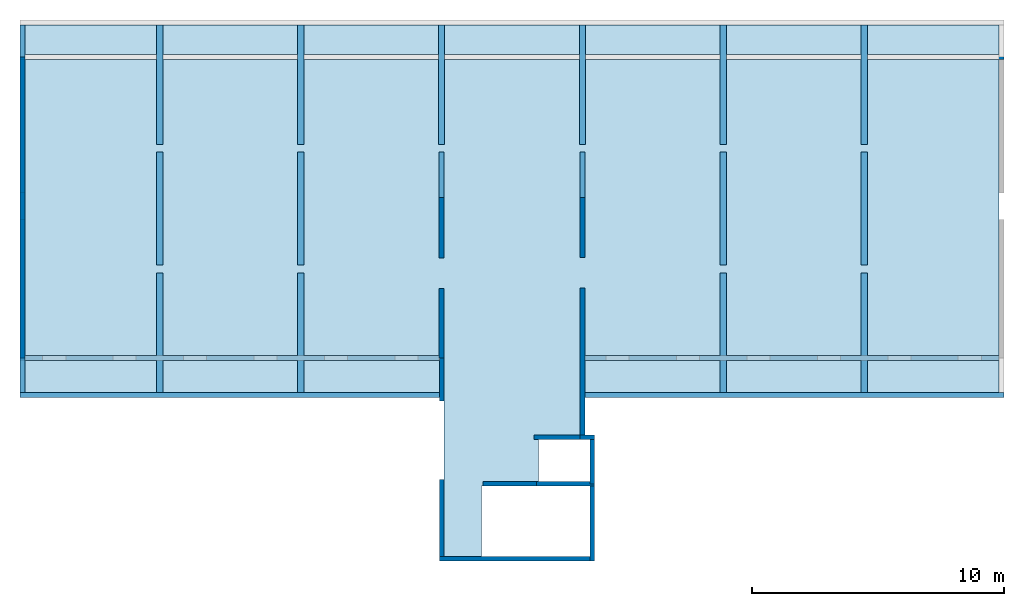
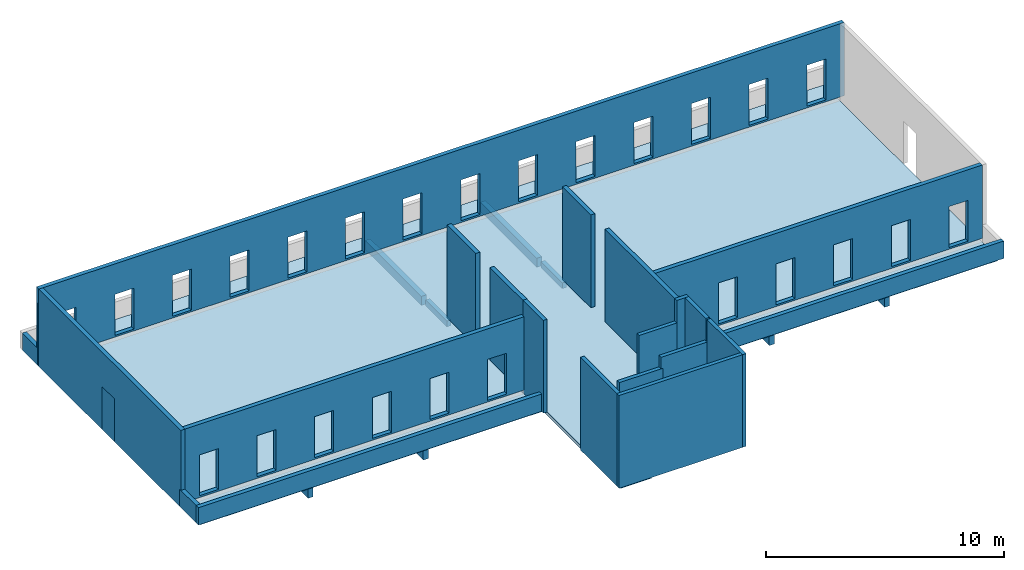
# One storey, part 1 of 3: 22 walls, 8 beams, 1 slab, 27 openings.
"""IFC2X3 building model written with IfcOpenShell, lengths in metres."""

from ifc_helpers import new_model, entity, si_unit, converted_unit, derived_unit, direction, frame, frame_2d, origin, origin_2d_with_axis, place, context, subcontext, project, spatial, polyline, rectangle, outline, extrude, material, layer, layer_set, layer_usage, type_object, element, save


model = new_model("IFC2X3")

# Units and contexts
model_context = context("Model", 3, precision=1e-05, world=origin(), true_north=direction((6.12303176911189e-17, 1.0)))
context_of_model = context(None, 3, precision=1e-05, world=origin(), true_north=direction((6.12303176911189e-17, 1.0)))
body_context = subcontext(model_context, "Body", "Model", "MODEL_VIEW")
ifc_project = project(units=[si_unit("LENGTHUNIT", "METRE"), si_unit("AREAUNIT", "SQUARE_METRE"), si_unit("VOLUMEUNIT", "CUBIC_METRE"), converted_unit("PLANEANGLEUNIT", "DEGREE", entity("IfcRatioMeasure", 0.0174532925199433), si_unit("PLANEANGLEUNIT", "RADIAN"), dimensions=[0, 0, 0, 0, 0, 0, 0]), si_unit("MASSUNIT", "GRAM", prefix="KILO"), si_unit("TIMEUNIT", "SECOND"), si_unit("FREQUENCYUNIT", "HERTZ"), si_unit("THERMODYNAMICTEMPERATUREUNIT", "DEGREE_CELSIUS"), derived_unit("THERMALTRANSMITTANCEUNIT", [(si_unit("MASSUNIT", "GRAM", prefix="KILO"), 1), (si_unit("THERMODYNAMICTEMPERATUREUNIT", "KELVIN"), -1), (si_unit("TIMEUNIT", "SECOND"), -3)]), derived_unit("VOLUMETRICFLOWRATEUNIT", [(si_unit("LENGTHUNIT", "METRE"), 3), (si_unit("TIMEUNIT", "SECOND"), -1)]), si_unit("ELECTRICCURRENTUNIT", "AMPERE"), si_unit("ELECTRICVOLTAGEUNIT", "VOLT"), si_unit("POWERUNIT", "WATT"), si_unit("FORCEUNIT", "NEWTON"), si_unit("ILLUMINANCEUNIT", "LUX"), si_unit("LUMINOUSFLUXUNIT", "LUMEN"), si_unit("LUMINOUSINTENSITYUNIT", "CANDELA"), si_unit("PRESSUREUNIT", "PASCAL")], contexts=[model_context, context_of_model])

# Site, building, storey
site_placement = place(None, origin())
site = spatial("IfcSite", under=ifc_project, at=site_placement, Name="Default", CompositionType="ELEMENT")
building_placement = place(site_placement, origin())
building = spatial("IfcBuilding", under=site, at=building_placement, Name="BATIMENT 1", CompositionType="ELEMENT")
storey_placement = place(building_placement, frame((0.0, 0.0, 7.03999999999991)))
storey = spatial("IfcBuildingStorey", under=building, at=storey_placement, Name="Niveau 2", CompositionType="ELEMENT", Elevation=7.03999999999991)

# Beams
ifc_material = material(Name="AEC Béton, C25/30")
beam_1_placement = place(storey_placement, frame((-14.2036530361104, -6.31746238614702, 0.0), z_axis=(0.0, 0.0, 1.0), x_axis=(0.0, 1.0, 0.0)))
element("IfcBeam", 1, at=beam_1_placement, inside=storey, material=ifc_material, Name="Béton - Poutre rectangulaire:BG 0.25 x 0.65 C25/30", ObjectType="Béton - Poutre rectangulaire:BG 0.25 x 0.65 C25/30", context=body_context, shape_type="SweptSolid", body=[
    extrude(rectangle(XDim=0.469999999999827, YDim=0.250000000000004, at=frame_2d((-5.41233724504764e-16, 0.0), x_axis=(1.0, 0.0))), frame((9.95, 0.0, -0.415000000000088), z_axis=(1.0, 0.0, 0.0), x_axis=(0.0, 0.0, 1.0)), (0.0, 0.0, 1.0), 4.75),
    extrude(rectangle(XDim=0.469999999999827, YDim=0.250000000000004, at=frame_2d((-5.41233724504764e-16, 0.0), x_axis=(1.0, 0.0))), frame((0.0999999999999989, 0.0, -0.415000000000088), z_axis=(1.0, 0.0, 0.0), x_axis=(0.0, 0.0, 1.0)), (0.0, 0.0, 1.0), 4.75),
    extrude(rectangle(XDim=0.469999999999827, YDim=0.250000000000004, at=frame_2d((-5.41233724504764e-16, 0.0), x_axis=(1.0, 0.0))), frame((5.15000000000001, 0.0, -0.415000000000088), z_axis=(1.0, 0.0, 0.0), x_axis=(0.0, 0.0, 1.0)), (0.0, 0.0, 1.0), 4.5),
])
beam_2_placement = place(storey_placement, frame((-8.60365303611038, -6.31746238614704, 0.0), z_axis=(0.0, 0.0, 1.0), x_axis=(0.0, 1.0, 0.0)))
element("IfcBeam", 2, at=beam_2_placement, inside=storey, material=ifc_material, Name="Béton - Poutre rectangulaire:BG 0.25 x 0.65 C25/30", ObjectType="Béton - Poutre rectangulaire:BG 0.25 x 0.65 C25/30", context=body_context, shape_type="SweptSolid", body=[
    extrude(rectangle(XDim=0.469999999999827, YDim=0.250000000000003, at=frame_2d((-5.41233724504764e-16, -5.41233724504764e-16), x_axis=(1.0, 0.0))), frame((9.95, 0.0, -0.415000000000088), z_axis=(1.0, 0.0, 0.0), x_axis=(0.0, 0.0, 1.0)), (0.0, 0.0, 1.0), 4.75),
    extrude(rectangle(XDim=0.469999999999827, YDim=0.250000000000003, at=frame_2d((-5.41233724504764e-16, -5.41233724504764e-16), x_axis=(1.0, 0.0))), frame((0.0999999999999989, 0.0, -0.415000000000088), z_axis=(1.0, 0.0, 0.0), x_axis=(0.0, 0.0, 1.0)), (0.0, 0.0, 1.0), 4.75000000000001),
    extrude(rectangle(XDim=0.469999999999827, YDim=0.250000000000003, at=frame_2d((-5.41233724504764e-16, 5.41233724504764e-16), x_axis=(1.0, 0.0))), frame((5.15000000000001, 0.0, -0.415000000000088), z_axis=(1.0, 0.0, 0.0), x_axis=(0.0, 0.0, 1.0)), (0.0, 0.0, 1.0), 4.5),
])
beam_3_placement = place(storey_placement, frame((8.19634696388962, -6.31746238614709, 0.0), z_axis=(0.0, 0.0, 1.0), x_axis=(0.0, 1.0, 0.0)))
element("IfcBeam", 3, at=beam_3_placement, inside=storey, material=ifc_material, Name="Béton - Poutre rectangulaire:BG 0.25 x 0.65 C25/30", ObjectType="Béton - Poutre rectangulaire:BG 0.25 x 0.65 C25/30", context=body_context, shape_type="SweptSolid", body=[
    extrude(rectangle(XDim=0.469999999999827, YDim=0.250000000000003, at=frame_2d((-5.41233724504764e-16, -5.41233724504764e-16), x_axis=(1.0, 0.0))), frame((9.95, 0.0, -0.415000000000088), z_axis=(1.0, 0.0, 0.0), x_axis=(0.0, 0.0, 1.0)), (0.0, 0.0, 1.0), 4.75),
    extrude(rectangle(XDim=0.469999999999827, YDim=0.250000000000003, at=frame_2d((-5.41233724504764e-16, -5.41233724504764e-16), x_axis=(1.0, 0.0))), frame((0.0999999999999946, 0.0, -0.415000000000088), z_axis=(1.0, 0.0, 0.0), x_axis=(0.0, 0.0, 1.0)), (0.0, 0.0, 1.0), 4.75000000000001),
    extrude(rectangle(XDim=0.469999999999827, YDim=0.250000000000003, at=frame_2d((-5.41233724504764e-16, 5.41233724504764e-16), x_axis=(1.0, 0.0))), frame((5.15000000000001, 0.0, -0.415000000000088), z_axis=(1.0, 0.0, 0.0), x_axis=(0.0, 0.0, 1.0)), (0.0, 0.0, 1.0), 4.5),
])
beam_4_placement = place(storey_placement, frame((13.7963469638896, -6.31746238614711, 0.0), z_axis=(0.0, 0.0, 1.0), x_axis=(0.0, 1.0, 0.0)))
element("IfcBeam", 4, at=beam_4_placement, inside=storey, material=ifc_material, Name="Béton - Poutre rectangulaire:BG 0.25 x 0.65 C25/30", ObjectType="Béton - Poutre rectangulaire:BG 0.25 x 0.65 C25/30", context=body_context, shape_type="SweptSolid", body=[
    extrude(rectangle(XDim=0.469999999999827, YDim=0.250000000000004, at=frame_2d((-5.41233724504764e-16, -2.17187379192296e-15), x_axis=(1.0, 0.0))), frame((9.95, 0.0, -0.415000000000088), z_axis=(1.0, 0.0, 0.0), x_axis=(0.0, 0.0, 1.0)), (0.0, 0.0, 1.0), 4.75),
    extrude(rectangle(XDim=0.469999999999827, YDim=0.250000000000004, at=frame_2d((-5.41233724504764e-16, 0.0), x_axis=(1.0, 0.0))), frame((0.0999999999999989, 0.0, -0.415000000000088), z_axis=(1.0, 0.0, 0.0), x_axis=(0.0, 0.0, 1.0)), (0.0, 0.0, 1.0), 4.75000000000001),
    extrude(rectangle(XDim=0.469999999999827, YDim=0.250000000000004, at=frame_2d((-5.41233724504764e-16, 0.0), x_axis=(1.0, 0.0))), frame((5.15000000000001, 0.0, -0.415000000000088), z_axis=(1.0, 0.0, 0.0), x_axis=(0.0, 0.0, 1.0)), (0.0, 0.0, 1.0), 4.5),
])
beam_5_placement = place(storey_placement, frame((-3.00365303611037, 3.48253761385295, 0.0), z_axis=(0.0, 0.0, 1.0), x_axis=(0.0, 1.0, 0.0)))
element("IfcBeam", 5, at=beam_5_placement, inside=storey, material=ifc_material, Name="Béton - Poutre rectangulaire:BG 0.25 x 0.65 C25/30", ObjectType="Béton - Poutre rectangulaire:BG 0.25 x 0.65 C25/30", context=body_context, shape_type="SweptSolid", body=[
    extrude(rectangle(XDim=0.469999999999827, YDim=0.250000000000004, at=frame_2d((5.41233724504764e-16, -8.04911692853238e-16), x_axis=(1.0, 0.0))), frame((0.149999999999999, 0.0, -0.415000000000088), z_axis=(1.0, 0.0, 0.0), x_axis=(0.0, 0.0, -1.0)), (0.0, 0.0, 1.0), 4.75000000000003),
])
beam_6_placement = place(storey_placement, frame((2.59634696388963, 3.48253761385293, 0.0), z_axis=(0.0, 0.0, 1.0), x_axis=(0.0, 1.0, 0.0)))
element("IfcBeam", 6, at=beam_6_placement, inside=storey, material=ifc_material, Name="Béton - Poutre rectangulaire:BG 0.25 x 0.65 C25/30", ObjectType="Béton - Poutre rectangulaire:BG 0.25 x 0.65 C25/30", context=body_context, shape_type="SweptSolid", body=[
    extrude(rectangle(XDim=0.469999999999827, YDim=0.250000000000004, at=frame_2d((5.41233724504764e-16, -8.04911692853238e-16), x_axis=(1.0, 0.0))), frame((0.150000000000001, 0.0, -0.415000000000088), z_axis=(1.0, 0.0, 0.0), x_axis=(0.0, 0.0, -1.0)), (0.0, 0.0, 1.0), 4.75000000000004),
])
beam_7_placement = place(storey_placement, frame((-3.00365303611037, 3.48253761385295, 0.0), z_axis=(0.0, 0.0, 1.0), x_axis=(0.0, -1.0, 0.0)))
element("IfcBeam", 7, at=beam_7_placement, inside=storey, material=ifc_material, Name="Béton - Poutre rectangulaire:BG 0.20 x 0.48  C25/30", ObjectType="Béton - Poutre rectangulaire:BG 0.20 x 0.48  C25/30", context=body_context, shape_type="SweptSolid", body=[
    extrude(rectangle(XDim=0.299999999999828, YDim=0.200000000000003, at=frame_2d((5.41233724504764e-16, 0.0), x_axis=(1.0, 0.0))), frame((0.149999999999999, 0.0, -0.330000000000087), z_axis=(1.0, 0.0, 0.0), x_axis=(0.0, 0.0, -1.0)), (0.0, 0.0, 1.0), 1.80000000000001),
])
beam_8_placement = place(storey_placement, frame((2.59634696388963, 3.48253761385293, 0.0), z_axis=(0.0, 0.0, 1.0), x_axis=(0.0, -1.0, 0.0)))
element("IfcBeam", 8, at=beam_8_placement, inside=storey, material=ifc_material, Name="Béton - Poutre rectangulaire:BG 0.20 x 0.48  C25/30", ObjectType="Béton - Poutre rectangulaire:BG 0.20 x 0.48  C25/30", context=body_context, shape_type="SweptSolid", body=[
    extrude(rectangle(XDim=0.299999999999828, YDim=0.200000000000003, at=frame_2d((5.41233724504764e-16, 0.0), x_axis=(1.0, 0.0))), frame((0.15, 0.0, -0.330000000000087), z_axis=(1.0, 0.0, 0.0), x_axis=(0.0, 0.0, -1.0)), (0.0, 0.0, 1.0), 1.80000000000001),
])

# Slab
ifc_layer_1 = layer(ifc_material, 0.18)
ifc_layer_set_1 = layer_set([ifc_layer_1], Name="Sol:BG DALLE BA 0.18 C25/30")
ifc_layer_usage_1 = layer_usage(ifc_layer_set_1, "AXIS3", "POSITIVE", 0.0)
slab_placement = place(storey_placement, origin())
element("IfcSlab", 9, at=slab_placement, inside=storey, material=ifc_layer_usage_1, Name="Sol:BG DALLE BA 0.18 C25/30", ObjectType="Sol:BG DALLE BA 0.18 C25/30", PredefinedType="FLOOR", context=body_context, shape_type="SweptSolid", body=[
    extrude(outline(polyline([(0.155714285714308, -19.7792857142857), (14.7557142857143, -19.7792857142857), (14.7557142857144, 18.9407142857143), (0.155714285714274, 18.9407142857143), (0.155714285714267, 2.2807142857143), (-1.72428571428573, 2.2807142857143), (-1.72428571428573, 0.635714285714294), (-3.39428571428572, 0.635714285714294), (-3.39428571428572, 2.68071428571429), (-3.57428571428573, 2.68071428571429), (-3.57428571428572, -1.62928571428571), (-6.37428571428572, -1.62928571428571), (-6.37428571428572, -3.12928571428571), (0.155714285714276, -3.12928571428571), (0.155714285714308, -19.7792857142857)])), frame((0.215632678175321, -6.37317667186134, 0.0), z_axis=(0.0, 0.0, -1.0), x_axis=(0.0, 1.0, 0.0)), (0.0, 0.0, 1.0), 0.180000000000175),
])

# Walls
ifc_layer_2 = layer(ifc_material, 0.2)
ifc_layer_set_2 = layer_set([ifc_layer_2], Name="Mur de base:BG VOILE BA 0.20 C25/30")
ifc_layer_usage_2 = layer_usage(ifc_layer_set_2, "AXIS2", "NEGATIVE", 0.1)
wall_type_1 = type_object("IfcWallType", Name="Mur de base:BG VOILE BA 0.20 C25/30", PredefinedType="STANDARD", material=ifc_layer_set_2)
wall_1_placement = place(storey_placement, frame((-19.7636530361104, -6.317462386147, 0.0)))
element("IfcWallStandardCase", 10, at=wall_1_placement, inside=storey, type_object=wall_type_1, material=ifc_layer_usage_2, Name="Mur de base:BG VOILE BA 0.20 C25/30", ObjectType="Mur de base:BG VOILE BA 0.20 C25/30", context=body_context, shape_type="SweptSolid", body=[
    extrude(rectangle(XDim=16.67, YDim=0.2, at=frame_2d((8.33500000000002, 3.7470027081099e-16), x_axis=(-1.0, 0.0))), origin(), (0.0, 0.0, 1.0), 0.890000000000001),
])
ifc_layer_usage_3 = layer_usage(ifc_layer_set_2, "AXIS2", "NEGATIVE", 0.1)
wall_2_placement = place(storey_placement, frame((2.69634696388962, -6.31746238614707, 0.0)))
element("IfcWallStandardCase", 11, at=wall_2_placement, inside=storey, type_object=wall_type_1, material=ifc_layer_usage_3, Name="Mur de base:BG VOILE BA 0.20 C25/30", ObjectType="Mur de base:BG VOILE BA 0.20 C25/30", context=body_context, shape_type="SweptSolid", body=[
    extrude(rectangle(XDim=16.6594874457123, YDim=0.2, at=frame_2d((8.32974372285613, 3.53883589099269e-16), x_axis=(-1.0, 0.0))), origin(), (0.0, 0.0, 1.0), 0.890000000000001),
])
ifc_layer_usage_4 = layer_usage(ifc_layer_set_2, "AXIS2", "NEGATIVE", 0.1)
wall_3_placement = place(storey_placement, frame((2.59634696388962, -7.91746238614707, 0.0), z_axis=(0.0, 0.0, 1.0), x_axis=(0.0, 1.0, 0.0)))
element("IfcWallStandardCase", 12, at=wall_3_placement, inside=storey, type_object=wall_type_1, material=ifc_layer_usage_4, Name="Mur de base:BG VOILE BA 0.20 C25/30", ObjectType="Mur de base:BG VOILE BA 0.20 C25/30", context=body_context, shape_type="SweptSolid", body=[
    extrude(rectangle(XDim=5.85, YDim=0.2, at=frame_2d((2.925, 0.0), x_axis=(-1.0, 0.0))), origin(), (0.0, 0.0, 1.0), 4.76000000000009),
])
ifc_layer_usage_5 = layer_usage(ifc_layer_set_2, "AXIS2", "NEGATIVE", 0.1)
wall_4_placement = place(storey_placement, frame((-3.00365303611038, -0.887462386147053, 0.0), z_axis=(0.0, 0.0, 1.0), x_axis=(0.0, 1.0, 0.0)))
element("IfcWallStandardCase", 13, at=wall_4_placement, inside=storey, type_object=wall_type_1, material=ifc_layer_usage_5, Name="Mur de base:BG VOILE BA 0.20 C25/30", ObjectType="Mur de base:BG VOILE BA 0.20 C25/30", context=body_context, shape_type="SweptSolid", body=[
    extrude(rectangle(XDim=2.42, YDim=0.2, at=frame_2d((1.21, 2.08166817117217e-17), x_axis=(-1.0, 0.0))), origin(), (0.0, 0.0, 1.0), 4.76000000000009),
])
ifc_layer_usage_6 = layer_usage(ifc_layer_set_2, "AXIS2", "NEGATIVE", 0.1)
wall_5_placement = place(storey_placement, frame((2.59634696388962, -0.867462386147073, 0.0), z_axis=(0.0, 0.0, 1.0), x_axis=(0.0, 1.0, 0.0)))
element("IfcWallStandardCase", 14, at=wall_5_placement, inside=storey, type_object=wall_type_1, material=ifc_layer_usage_6, Name="Mur de base:BG VOILE BA 0.20 C25/30", ObjectType="Mur de base:BG VOILE BA 0.20 C25/30", context=body_context, shape_type="SweptSolid", body=[
    extrude(rectangle(XDim=2.4, YDim=0.2, at=frame_2d((1.2, 0.0), x_axis=(-1.0, 0.0))), origin(), (0.0, 0.0, 1.0), 4.76000000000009),
])

# Wall, openings
ifc_layer_usage_7 = layer_usage(ifc_layer_set_2, "AXIS2", "NEGATIVE", 0.1)
wall_6_placement = place(storey_placement, frame((-19.7636530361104, 7.112537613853, 0.209999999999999)))
wall_6 = element("IfcWallStandardCase", 15, at=wall_6_placement, inside=storey, type_object=wall_type_1, material=ifc_layer_usage_7, Name="Mur de base:BG VOILE BA 0.20 C25/30", ObjectType="Mur de base:BG VOILE BA 0.20 C25/30", context=body_context, shape_type="SweptSolid", body=[
    extrude(rectangle(XDim=39.12, YDim=0.2, at=frame_2d((19.56, 3.19189119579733e-16), x_axis=(-1.0, 0.0))), origin(), (0.0, 0.0, 1.0), 3.76000000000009),
])
opening_1_placement = place(wall_6_placement, origin())
element("IfcOpeningElement", 16, at=opening_1_placement, cuts=wall_6, Name="Mur de base:BG VOILE BA 0.20 C25/30", ObjectType="Opening", context=body_context, shape_type="SweptSolid", body=[
    extrude(rectangle(XDim=2.1, YDim=0.919999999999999, at=frame_2d((-5.55111512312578e-16, 0.0), x_axis=(1.0, 0.0))), frame((1.35999999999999, -0.1, 1.14), z_axis=(0.0, 1.0, 0.0), x_axis=(0.0, 0.0, -1.0)), (0.0, 0.0, 1.0), 0.2),
])
opening_2_placement = place(wall_6_placement, origin())
element("IfcOpeningElement", 17, at=opening_2_placement, cuts=wall_6, Name="Mur de base:BG VOILE BA 0.20 C25/30", ObjectType="Opening", context=body_context, shape_type="SweptSolid", body=[
    extrude(rectangle(XDim=2.1, YDim=0.919999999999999, at=frame_2d((-5.55111512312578e-16, 0.0), x_axis=(1.0, 0.0))), frame((4.15999999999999, -0.1, 1.14), z_axis=(0.0, 1.0, 0.0), x_axis=(0.0, 0.0, -1.0)), (0.0, 0.0, 1.0), 0.2),
])
opening_3_placement = place(wall_6_placement, origin())
element("IfcOpeningElement", 18, at=opening_3_placement, cuts=wall_6, Name="Mur de base:BG VOILE BA 0.20 C25/30", ObjectType="Opening", context=body_context, shape_type="SweptSolid", body=[
    extrude(rectangle(XDim=2.1, YDim=0.919999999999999, at=frame_2d((-5.55111512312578e-16, 0.0), x_axis=(1.0, 0.0))), frame((6.95999999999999, -0.0999999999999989, 1.14), z_axis=(0.0, 1.0, 0.0), x_axis=(0.0, 0.0, -1.0)), (0.0, 0.0, 1.0), 0.2),
])
opening_4_placement = place(wall_6_placement, origin())
element("IfcOpeningElement", 19, at=opening_4_placement, cuts=wall_6, Name="Mur de base:BG VOILE BA 0.20 C25/30", ObjectType="Opening", context=body_context, shape_type="SweptSolid", body=[
    extrude(rectangle(XDim=2.1, YDim=0.919999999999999, at=frame_2d((-5.55111512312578e-16, 0.0), x_axis=(1.0, 0.0))), frame((9.75999999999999, -0.0999999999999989, 1.14), z_axis=(0.0, 1.0, 0.0), x_axis=(0.0, 0.0, -1.0)), (0.0, 0.0, 1.0), 0.2),
])
opening_5_placement = place(wall_6_placement, origin())
element("IfcOpeningElement", 20, at=opening_5_placement, cuts=wall_6, Name="Mur de base:BG VOILE BA 0.20 C25/30", ObjectType="Opening", context=body_context, shape_type="SweptSolid", body=[
    extrude(rectangle(XDim=2.1, YDim=0.919999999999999, at=frame_2d((-5.55111512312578e-16, 0.0), x_axis=(1.0, 0.0))), frame((12.56, -0.0999999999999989, 1.14), z_axis=(0.0, 1.0, 0.0), x_axis=(0.0, 0.0, -1.0)), (0.0, 0.0, 1.0), 0.2),
])
opening_6_placement = place(wall_6_placement, origin())
element("IfcOpeningElement", 21, at=opening_6_placement, cuts=wall_6, Name="Mur de base:BG VOILE BA 0.20 C25/30", ObjectType="Opening", context=body_context, shape_type="SweptSolid", body=[
    extrude(rectangle(XDim=2.1, YDim=0.919999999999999, at=frame_2d((-5.55111512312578e-16, 0.0), x_axis=(1.0, 0.0))), frame((15.36, -0.0999999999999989, 1.14), z_axis=(0.0, 1.0, 0.0), x_axis=(0.0, 0.0, -1.0)), (0.0, 0.0, 1.0), 0.2),
])
opening_7_placement = place(wall_6_placement, origin())
element("IfcOpeningElement", 22, at=opening_7_placement, cuts=wall_6, Name="Mur de base:BG VOILE BA 0.20 C25/30", ObjectType="Opening", context=body_context, shape_type="SweptSolid", body=[
    extrude(rectangle(XDim=2.1, YDim=0.919999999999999, at=frame_2d((-5.55111512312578e-16, 0.0), x_axis=(1.0, 0.0))), frame((18.16, -0.0999999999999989, 1.14), z_axis=(0.0, 1.0, 0.0), x_axis=(0.0, 0.0, -1.0)), (0.0, 0.0, 1.0), 0.2),
])
opening_8_placement = place(wall_6_placement, origin())
element("IfcOpeningElement", 23, at=opening_8_placement, cuts=wall_6, Name="Mur de base:BG VOILE BA 0.20 C25/30", ObjectType="Opening", context=body_context, shape_type="SweptSolid", body=[
    extrude(rectangle(XDim=2.1, YDim=0.919999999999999, at=frame_2d((-5.55111512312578e-16, -8.32667268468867e-17), x_axis=(1.0, 0.0))), frame((20.96, -0.1, 1.14), z_axis=(0.0, 1.0, 0.0), x_axis=(0.0, 0.0, -1.0)), (0.0, 0.0, 1.0), 0.2),
])
opening_9_placement = place(wall_6_placement, origin())
element("IfcOpeningElement", 24, at=opening_9_placement, cuts=wall_6, Name="Mur de base:BG VOILE BA 0.20 C25/30", ObjectType="Opening", context=body_context, shape_type="SweptSolid", body=[
    extrude(rectangle(XDim=2.1, YDim=0.919999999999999, at=frame_2d((-5.55111512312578e-16, 0.0), x_axis=(1.0, 0.0))), frame((23.76, -0.1, 1.14), z_axis=(0.0, 1.0, 0.0), x_axis=(0.0, 0.0, -1.0)), (0.0, 0.0, 1.0), 0.2),
])
opening_10_placement = place(wall_6_placement, origin())
element("IfcOpeningElement", 25, at=opening_10_placement, cuts=wall_6, Name="Mur de base:BG VOILE BA 0.20 C25/30", ObjectType="Opening", context=body_context, shape_type="SweptSolid", body=[
    extrude(rectangle(XDim=2.1, YDim=0.919999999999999, at=frame_2d((-5.55111512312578e-16, 0.0), x_axis=(1.0, 0.0))), frame((26.56, -0.1, 1.14), z_axis=(0.0, 1.0, 0.0), x_axis=(0.0, 0.0, -1.0)), (0.0, 0.0, 1.0), 0.2),
])
opening_11_placement = place(wall_6_placement, origin())
element("IfcOpeningElement", 26, at=opening_11_placement, cuts=wall_6, Name="Mur de base:BG VOILE BA 0.20 C25/30", ObjectType="Opening", context=body_context, shape_type="SweptSolid", body=[
    extrude(rectangle(XDim=2.1, YDim=0.919999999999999, at=frame_2d((-5.55111512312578e-16, 0.0), x_axis=(1.0, 0.0))), frame((29.36, -0.1, 1.14), z_axis=(0.0, 1.0, 0.0), x_axis=(0.0, 0.0, -1.0)), (0.0, 0.0, 1.0), 0.2),
])
opening_12_placement = place(wall_6_placement, origin())
element("IfcOpeningElement", 27, at=opening_12_placement, cuts=wall_6, Name="Mur de base:BG VOILE BA 0.20 C25/30", ObjectType="Opening", context=body_context, shape_type="SweptSolid", body=[
    extrude(rectangle(XDim=2.1, YDim=0.919999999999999, at=frame_2d((-5.55111512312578e-16, 0.0), x_axis=(1.0, 0.0))), frame((32.16, -0.1, 1.14), z_axis=(0.0, 1.0, 0.0), x_axis=(0.0, 0.0, -1.0)), (0.0, 0.0, 1.0), 0.2),
])
opening_13_placement = place(wall_6_placement, origin())
element("IfcOpeningElement", 28, at=opening_13_placement, cuts=wall_6, Name="Mur de base:BG VOILE BA 0.20 C25/30", ObjectType="Opening", context=body_context, shape_type="SweptSolid", body=[
    extrude(rectangle(XDim=2.1, YDim=0.919999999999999, at=frame_2d((-5.55111512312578e-16, 0.0), x_axis=(1.0, 0.0))), frame((34.96, -0.1, 1.14), z_axis=(0.0, 1.0, 0.0), x_axis=(0.0, 0.0, -1.0)), (0.0, 0.0, 1.0), 0.2),
])
opening_14_placement = place(wall_6_placement, origin())
element("IfcOpeningElement", 29, at=opening_14_placement, cuts=wall_6, Name="Mur de base:BG VOILE BA 0.20 C25/30", ObjectType="Opening", context=body_context, shape_type="SweptSolid", body=[
    extrude(rectangle(XDim=2.1, YDim=0.919999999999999, at=frame_2d((-5.55111512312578e-16, 0.0), x_axis=(1.0, 0.0))), frame((37.76, -0.1, 1.14), z_axis=(0.0, 1.0, 0.0), x_axis=(0.0, 0.0, -1.0)), (0.0, 0.0, 1.0), 0.2),
])

# Wall
ifc_layer_usage_8 = layer_usage(ifc_layer_set_2, "AXIS2", "NEGATIVE", 0.1)
wall_7_placement = place(storey_placement, frame((-19.6636530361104, 7.112537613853, 0.0), z_axis=(0.0, 0.0, 1.0), x_axis=(0.0, -1.0, 0.0)))
element("IfcWallStandardCase", 30, at=wall_7_placement, inside=storey, type_object=wall_type_1, material=ifc_layer_usage_8, Name="Mur de base:BG VOILE BA 0.20 C25/30", ObjectType="Mur de base:BG VOILE BA 0.20 C25/30", context=body_context, shape_type="SweptSolid", body=[
    extrude(rectangle(XDim=11.96, YDim=0.199999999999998, at=frame_2d((5.98, 0.0), x_axis=(-1.0, 0.0))), origin(), (0.0, 0.0, 1.0), 3.21000000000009),
])

# Wall, opening
ifc_layer_usage_9 = layer_usage(ifc_layer_set_2, "AXIS2", "NEGATIVE", 0.1)
wall_8_placement = place(storey_placement, frame((-19.6636530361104, 7.112537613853, 0.0), z_axis=(0.0, 0.0, 1.0), x_axis=(0.0, -1.0, 0.0)))
wall_8 = element("IfcWallStandardCase", 31, at=wall_8_placement, inside=storey, type_object=wall_type_1, material=ifc_layer_usage_9, Name="Mur de base:BG VOILE BA 0.20 C25/30", ObjectType="Mur de base:BG VOILE BA 0.20 C25/30", context=body_context, shape_type="SweptSolid", body=[
    extrude(rectangle(XDim=11.96, YDim=0.200000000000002, at=frame_2d((6.08, -2.51187959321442e-15), x_axis=(1.0, 0.0))), origin(), (0.0, 0.0, 1.0), 3.97000000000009),
])
opening_15_placement = place(wall_8_placement, origin())
element("IfcOpeningElement", 32, at=opening_15_placement, cuts=wall_8, Name="Mur de base:BG VOILE BA 0.20 C25/30", ObjectType="Opening", context=body_context, shape_type="SweptSolid", body=[
    extrude(rectangle(XDim=2.2, YDim=1.05, at=origin_2d_with_axis()), frame((5.94, -0.0999999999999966, 1.1), z_axis=(0.0, 1.0, 0.0), x_axis=(0.0, 0.0, -1.0)), (0.0, 0.0, 1.0), 0.199999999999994),
])

# Wall, openings
ifc_layer_usage_10 = layer_usage(ifc_layer_set_2, "AXIS2", "NEGATIVE", 0.1)
wall_9_placement = place(storey_placement, frame((-19.5636530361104, -4.847462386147, 0.209999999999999)))
wall_9 = element("IfcWallStandardCase", 33, at=wall_9_placement, inside=storey, type_object=wall_type_1, material=ifc_layer_usage_10, Name="Mur de base:BG VOILE BA 0.20 C25/30", ObjectType="Mur de base:BG VOILE BA 0.20 C25/30", context=body_context, shape_type="SweptSolid", body=[
    extrude(rectangle(XDim=16.46, YDim=0.199999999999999, at=frame_2d((8.23000000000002, 3.05311331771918e-16), x_axis=(-1.0, 0.0))), origin(), (0.0, 0.0, 1.0), 3.76000000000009),
])
opening_16_placement = place(wall_9_placement, origin())
element("IfcOpeningElement", 34, at=opening_16_placement, cuts=wall_9, Name="Mur de base:BG VOILE BA 0.20 C25/30", ObjectType="Opening", context=body_context, shape_type="SweptSolid", body=[
    extrude(rectangle(XDim=2.1, YDim=0.919999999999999, at=frame_2d((-5.55111512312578e-16, 0.0), x_axis=(1.0, 0.0))), frame((1.15999999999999, -0.1, 1.14), z_axis=(0.0, 1.0, 0.0), x_axis=(0.0, 0.0, -1.0)), (0.0, 0.0, 1.0), 0.2),
])
opening_17_placement = place(wall_9_placement, origin())
element("IfcOpeningElement", 35, at=opening_17_placement, cuts=wall_9, Name="Mur de base:BG VOILE BA 0.20 C25/30", ObjectType="Opening", context=body_context, shape_type="SweptSolid", body=[
    extrude(rectangle(XDim=2.1, YDim=0.919999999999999, at=frame_2d((-5.55111512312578e-16, 0.0), x_axis=(1.0, 0.0))), frame((3.95999999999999, -0.100000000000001, 1.14), z_axis=(0.0, 1.0, 0.0), x_axis=(0.0, 0.0, -1.0)), (0.0, 0.0, 1.0), 0.200000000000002),
])
opening_18_placement = place(wall_9_placement, origin())
element("IfcOpeningElement", 36, at=opening_18_placement, cuts=wall_9, Name="Mur de base:BG VOILE BA 0.20 C25/30", ObjectType="Opening", context=body_context, shape_type="SweptSolid", body=[
    extrude(rectangle(XDim=2.1, YDim=0.919999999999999, at=frame_2d((-5.55111512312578e-16, 0.0), x_axis=(1.0, 0.0))), frame((6.75999999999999, -0.1, 1.14), z_axis=(0.0, 1.0, 0.0), x_axis=(0.0, 0.0, -1.0)), (0.0, 0.0, 1.0), 0.200000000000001),
])
opening_19_placement = place(wall_9_placement, origin())
element("IfcOpeningElement", 37, at=opening_19_placement, cuts=wall_9, Name="Mur de base:BG VOILE BA 0.20 C25/30", ObjectType="Opening", context=body_context, shape_type="SweptSolid", body=[
    extrude(rectangle(XDim=2.1, YDim=0.919999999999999, at=frame_2d((-5.55111512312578e-16, 0.0), x_axis=(1.0, 0.0))), frame((9.55999999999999, -0.0999999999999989, 1.14), z_axis=(0.0, 1.0, 0.0), x_axis=(0.0, 0.0, -1.0)), (0.0, 0.0, 1.0), 0.199999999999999),
])
opening_20_placement = place(wall_9_placement, origin())
element("IfcOpeningElement", 38, at=opening_20_placement, cuts=wall_9, Name="Mur de base:BG VOILE BA 0.20 C25/30", ObjectType="Opening", context=body_context, shape_type="SweptSolid", body=[
    extrude(rectangle(XDim=2.1, YDim=0.919999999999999, at=frame_2d((-5.55111512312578e-16, 0.0), x_axis=(1.0, 0.0))), frame((12.36, -0.0999999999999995, 1.14), z_axis=(0.0, 1.0, 0.0), x_axis=(0.0, 0.0, -1.0)), (0.0, 0.0, 1.0), 0.199999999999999),
])
opening_21_placement = place(wall_9_placement, origin())
element("IfcOpeningElement", 39, at=opening_21_placement, cuts=wall_9, Name="Mur de base:BG VOILE BA 0.20 C25/30", ObjectType="Opening", context=body_context, shape_type="SweptSolid", body=[
    extrude(rectangle(XDim=2.1, YDim=0.919999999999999, at=frame_2d((-5.55111512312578e-16, 0.0), x_axis=(1.0, 0.0))), frame((15.16, -0.0999999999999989, 1.14), z_axis=(0.0, 1.0, 0.0), x_axis=(0.0, 0.0, -1.0)), (0.0, 0.0, 1.0), 0.199999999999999),
])

ifc_layer_usage_11 = layer_usage(ifc_layer_set_2, "AXIS2", "NEGATIVE", 0.1)
wall_10_placement = place(storey_placement, frame((2.69634696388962, -4.84746238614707, 0.209999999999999)))
wall_10 = element("IfcWallStandardCase", 40, at=wall_10_placement, inside=storey, type_object=wall_type_1, material=ifc_layer_usage_11, Name="Mur de base:BG VOILE BA 0.20 C25/30", ObjectType="Mur de base:BG VOILE BA 0.20 C25/30", context=body_context, shape_type="SweptSolid", body=[
    extrude(rectangle(XDim=16.46, YDim=0.200000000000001, at=frame_2d((8.22999999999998, -2.35922392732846e-16), x_axis=(-1.0, 0.0))), origin(), (0.0, 0.0, 1.0), 3.76000000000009),
])
opening_22_placement = place(wall_10_placement, origin())
element("IfcOpeningElement", 41, at=opening_22_placement, cuts=wall_10, Name="Mur de base:BG VOILE BA 0.20 C25/30", ObjectType="Opening", context=body_context, shape_type="SweptSolid", body=[
    extrude(rectangle(XDim=2.1, YDim=0.919999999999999, at=frame_2d((-5.55111512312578e-16, 0.0), x_axis=(1.0, 0.0))), frame((1.29999999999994, -0.100000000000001, 1.14), z_axis=(0.0, 1.0, 0.0), x_axis=(0.0, 0.0, -1.0)), (0.0, 0.0, 1.0), 0.200000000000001),
])
opening_23_placement = place(wall_10_placement, origin())
element("IfcOpeningElement", 42, at=opening_23_placement, cuts=wall_10, Name="Mur de base:BG VOILE BA 0.20 C25/30", ObjectType="Opening", context=body_context, shape_type="SweptSolid", body=[
    extrude(rectangle(XDim=2.1, YDim=0.919999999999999, at=frame_2d((-5.55111512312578e-16, 0.0), x_axis=(1.0, 0.0))), frame((4.09999999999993, -0.0999999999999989, 1.14), z_axis=(0.0, 1.0, 0.0), x_axis=(0.0, 0.0, -1.0)), (0.0, 0.0, 1.0), 0.199999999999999),
])
opening_24_placement = place(wall_10_placement, origin())
element("IfcOpeningElement", 43, at=opening_24_placement, cuts=wall_10, Name="Mur de base:BG VOILE BA 0.20 C25/30", ObjectType="Opening", context=body_context, shape_type="SweptSolid", body=[
    extrude(rectangle(XDim=2.1, YDim=0.919999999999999, at=frame_2d((-5.55111512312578e-16, 0.0), x_axis=(1.0, 0.0))), frame((6.89999999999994, -0.100000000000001, 1.14), z_axis=(0.0, 1.0, 0.0), x_axis=(0.0, 0.0, -1.0)), (0.0, 0.0, 1.0), 0.199999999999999),
])
opening_25_placement = place(wall_10_placement, origin())
element("IfcOpeningElement", 44, at=opening_25_placement, cuts=wall_10, Name="Mur de base:BG VOILE BA 0.20 C25/30", ObjectType="Opening", context=body_context, shape_type="SweptSolid", body=[
    extrude(rectangle(XDim=2.1, YDim=0.919999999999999, at=frame_2d((-5.55111512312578e-16, 0.0), x_axis=(1.0, 0.0))), frame((9.69999999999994, -0.100000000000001, 1.14), z_axis=(0.0, 1.0, 0.0), x_axis=(0.0, 0.0, -1.0)), (0.0, 0.0, 1.0), 0.199999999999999),
])
opening_26_placement = place(wall_10_placement, origin())
element("IfcOpeningElement", 45, at=opening_26_placement, cuts=wall_10, Name="Mur de base:BG VOILE BA 0.20 C25/30", ObjectType="Opening", context=body_context, shape_type="SweptSolid", body=[
    extrude(rectangle(XDim=2.1, YDim=0.919999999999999, at=frame_2d((-5.55111512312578e-16, 0.0), x_axis=(1.0, 0.0))), frame((12.4999999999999, -0.100000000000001, 1.14), z_axis=(0.0, 1.0, 0.0), x_axis=(0.0, 0.0, -1.0)), (0.0, 0.0, 1.0), 0.200000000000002),
])
opening_27_placement = place(wall_10_placement, origin())
element("IfcOpeningElement", 46, at=opening_27_placement, cuts=wall_10, Name="Mur de base:BG VOILE BA 0.20 C25/30", ObjectType="Opening", context=body_context, shape_type="SweptSolid", body=[
    extrude(rectangle(XDim=2.1, YDim=0.919999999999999, at=frame_2d((-5.55111512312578e-16, 0.0), x_axis=(1.0, 0.0))), frame((15.2999999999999, -0.1, 1.14), z_axis=(0.0, 1.0, 0.0), x_axis=(0.0, 0.0, -1.0)), (0.0, 0.0, 1.0), 0.199999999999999),
])

# Walls
ifc_layer_usage_12 = layer_usage(ifc_layer_set_2, "AXIS2", "NEGATIVE", 0.1)
wall_11_placement = place(storey_placement, frame((-19.6641655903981, 8.38253761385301, 0.0), z_axis=(0.0, 0.0, 1.0), x_axis=(0.0, -1.0, 0.0)))
element("IfcWallStandardCase", 47, at=wall_11_placement, inside=storey, type_object=wall_type_1, material=ifc_layer_usage_12, Name="Mur de base:BG VOILE BA 0.20 C25/30", ObjectType="Mur de base:BG VOILE BA 0.20 C25/30", context=body_context, shape_type="SweptSolid", body=[
    extrude(rectangle(XDim=1.27, YDim=0.199999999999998, at=frame_2d((0.635000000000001, -5.759281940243e-16), x_axis=(-1.0, 0.0))), origin(), (0.0, 0.0, 1.0), 0.890000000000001),
])
ifc_layer_usage_13 = layer_usage(ifc_layer_set_2, "AXIS2", "NEGATIVE", 0.1)
wall_12_placement = place(storey_placement, frame((-19.6636530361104, -4.847462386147, 0.0), z_axis=(0.0, 0.0, 1.0), x_axis=(0.0, -1.0, 0.0)))
element("IfcWallStandardCase", 48, at=wall_12_placement, inside=storey, type_object=wall_type_1, material=ifc_layer_usage_13, Name="Mur de base:BG VOILE BA 0.20 C25/30", ObjectType="Mur de base:BG VOILE BA 0.20 C25/30", context=body_context, shape_type="SweptSolid", body=[
    extrude(rectangle(XDim=1.37, YDim=0.199999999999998, at=frame_2d((0.685, -6.17561557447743e-16), x_axis=(-1.0, 0.0))), origin(), (0.0, 0.0, 1.0), 0.890000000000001),
])
ifc_layer_usage_14 = layer_usage(ifc_layer_set_2, "AXIS2", "NEGATIVE", 0.1)
wall_13_placement = place(storey_placement, frame((-3.00365303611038, -4.94746238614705, 0.0), z_axis=(0.0, 0.0, 1.0), x_axis=(0.0, 1.0, 0.0)))
element("IfcWallStandardCase", 49, at=wall_13_placement, inside=storey, type_object=wall_type_1, material=ifc_layer_usage_14, Name="Mur de base:BG VOILE BA 0.20 C25/30", ObjectType="Mur de base:BG VOILE BA 0.20 C25/30", context=body_context, shape_type="SweptSolid", body=[
    extrude(rectangle(XDim=2.76, YDim=0.2, at=frame_2d((1.48, 2.42861286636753e-16), x_axis=(-1.0, 0.0))), origin(), (0.0, 0.0, 1.0), 4.76000000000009),
])
ifc_layer_3 = layer(ifc_material, 0.18)
ifc_layer_set_3 = layer_set([ifc_layer_3], Name="Mur de base:BG VOILE BA 0.18 C25/30")
ifc_layer_usage_15 = layer_usage(ifc_layer_set_3, "AXIS2", "NEGATIVE", 0.09)
wall_type_2 = type_object("IfcWallType", Name="Mur de base:BG VOILE BA 0.18 C25/30", PredefinedType="STANDARD", material=ifc_layer_set_3)
wall_14_placement = place(storey_placement, frame((-3.00365303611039, -6.56746238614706, 0.0), z_axis=(0.0, 0.0, 1.0), x_axis=(0.0, 1.0, 0.0)))
element("IfcWallStandardCase", 50, at=wall_14_placement, inside=storey, type_object=wall_type_2, material=ifc_layer_usage_15, Name="Mur de base:BG VOILE BA 0.18 C25/30", ObjectType="Mur de base:BG VOILE BA 0.18 C25/30", context=body_context, shape_type="SweptSolid", body=[
    extrude(rectangle(XDim=1.72, YDim=0.18, at=frame_2d((0.860000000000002, -7.63278329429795e-17), x_axis=(-1.0, 0.0))), origin(), (0.0, 0.0, 1.0), 4.76000000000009),
])
ifc_layer_usage_16 = layer_usage(ifc_layer_set_3, "AXIS2", "NEGATIVE", 0.09)
wall_15_placement = place(storey_placement, frame((0.67134696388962, -8.00746238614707, 0.0)))
element("IfcWallStandardCase", 51, at=wall_15_placement, inside=storey, type_object=wall_type_2, material=ifc_layer_usage_16, Name="Mur de base:BG VOILE BA 0.18 C25/30", ObjectType="Mur de base:BG VOILE BA 0.18 C25/30", context=body_context, shape_type="SweptSolid", body=[
    extrude(rectangle(XDim=1.82499999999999, YDim=0.18, at=frame_2d((0.912499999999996, -1.80411241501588e-16), x_axis=(-1.0, 0.0))), origin(), (0.0, 0.0, 1.0), 3.60000000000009),
])
ifc_layer_usage_17 = layer_usage(ifc_layer_set_3, "AXIS2", "NEGATIVE", 0.09)
wall_16_placement = place(storey_placement, frame((2.98634696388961, -8.09746238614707, 0.0), z_axis=(0.0, 0.0, 1.0), x_axis=(0.0, -1.0, 0.0)))
element("IfcWallStandardCase", 52, at=wall_16_placement, inside=storey, type_object=wall_type_2, material=ifc_layer_usage_17, Name="Mur de base:BG VOILE BA 0.18 C25/30", ObjectType="Mur de base:BG VOILE BA 0.18 C25/30", context=body_context, shape_type="SweptSolid", body=[
    extrude(rectangle(XDim=1.76, YDim=0.18, at=frame_2d((0.880000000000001, 2.08166817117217e-17), x_axis=(-1.0, 0.0))), origin(), (0.0, 0.0, 1.0), 4.76000000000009),
])
ifc_layer_usage_18 = layer_usage(ifc_layer_set_3, "AXIS2", "NEGATIVE", 0.09)
wall_17_placement = place(storey_placement, frame((2.89634696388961, -12.8374623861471, 0.0), z_axis=(0.0, 0.0, 1.0), x_axis=(-1.0, 0.0, 0.0)))
element("IfcWallStandardCase", 53, at=wall_17_placement, inside=storey, type_object=wall_type_2, material=ifc_layer_usage_18, Name="Mur de base:BG VOILE BA 0.18 C25/30", ObjectType="Mur de base:BG VOILE BA 0.18 C25/30", context=body_context, shape_type="SweptSolid", body=[
    extrude(rectangle(XDim=5.99, YDim=0.179999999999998, at=frame_2d((2.995, 0.0), x_axis=(-1.0, 0.0))), origin(), (0.0, 0.0, 1.0), 4.76000000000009),
])
ifc_layer_usage_19 = layer_usage(ifc_layer_set_3, "AXIS2", "NEGATIVE", 0.09)
wall_18_placement = place(storey_placement, frame((-3.00365303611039, -12.7474623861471, 0.0), z_axis=(0.0, 0.0, 1.0), x_axis=(0.0, 1.0, 0.0)))
element("IfcWallStandardCase", 54, at=wall_18_placement, inside=storey, type_object=wall_type_2, material=ifc_layer_usage_19, Name="Mur de base:BG VOILE BA 0.18 C25/30", ObjectType="Mur de base:BG VOILE BA 0.18 C25/30", context=body_context, shape_type="SweptSolid", body=[
    extrude(rectangle(XDim=3.07, YDim=0.18, at=frame_2d((1.535, -5.55111512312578e-17), x_axis=(-1.0, 0.0))), origin(), (0.0, 0.0, 1.0), 4.76000000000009),
])
ifc_layer_usage_20 = layer_usage(ifc_layer_set_3, "AXIS2", "NEGATIVE", 0.09)
wall_19_placement = place(storey_placement, frame((3.07634696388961, -9.85746238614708, 0.0), z_axis=(0.0, 0.0, 1.0), x_axis=(-1.0, 0.0, 0.0)))
element("IfcWallStandardCase", 55, at=wall_19_placement, inside=storey, type_object=wall_type_2, material=ifc_layer_usage_20, Name="Mur de base:BG VOILE BA 0.18 C25/30", ObjectType="Mur de base:BG VOILE BA 0.18 C25/30", context=body_context, shape_type="SweptSolid", body=[
    extrude(rectangle(XDim=2.40499999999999, YDim=0.179999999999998, at=frame_2d((1.2025, 6.66133814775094e-16), x_axis=(-1.0, 0.0))), origin(), (0.0, 0.0, 1.0), 3.60000000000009),
])
ifc_layer_usage_21 = layer_usage(ifc_layer_set_3, "AXIS2", "NEGATIVE", 0.09)
wall_20_placement = place(storey_placement, frame((2.98634696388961, -9.85746238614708, 0.0), z_axis=(0.0, 0.0, 1.0), x_axis=(0.0, -1.0, 0.0)))
element("IfcWallStandardCase", 56, at=wall_20_placement, inside=storey, type_object=wall_type_2, material=ifc_layer_usage_21, Name="Mur de base:BG VOILE BA 0.18 C25/30", ObjectType="Mur de base:BG VOILE BA 0.18 C25/30", context=body_context, shape_type="SweptSolid", body=[
    extrude(rectangle(XDim=2.98, YDim=0.18, at=frame_2d((1.58, 4.16333634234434e-17), x_axis=(-1.0, 0.0))), origin(), (0.0, 0.0, 1.0), 4.76000000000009),
])
ifc_layer_usage_22 = layer_usage(ifc_layer_set_3, "AXIS2", "NEGATIVE", 0.09)
wall_21_placement = place(storey_placement, frame((0.761346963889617, -9.85746238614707, 0.0), z_axis=(0.0, 0.0, 1.0), x_axis=(-1.0, 0.0, 0.0)))
element("IfcWallStandardCase", 57, at=wall_21_placement, inside=storey, type_object=wall_type_2, material=ifc_layer_usage_22, Name="Mur de base:BG VOILE BA 0.18 C25/30", ObjectType="Mur de base:BG VOILE BA 0.18 C25/30", context=body_context, shape_type="SweptSolid", body=[
    extrude(rectangle(XDim=2.12500000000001, YDim=0.179999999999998, at=frame_2d((1.0625, -8.74300631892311e-16), x_axis=(-1.0, 0.0))), origin(), (0.0, 0.0, 1.0), 3.01000000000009),
])
ifc_layer_usage_23 = layer_usage(ifc_layer_set_3, "AXIS2", "NEGATIVE", 0.09)
wall_22_placement = place(storey_placement, frame((2.49634696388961, -8.00746238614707, 0.0)))
element("IfcWallStandardCase", 58, at=wall_22_placement, inside=storey, type_object=wall_type_2, material=ifc_layer_usage_23, Name="Mur de base:BG VOILE BA 0.18 C25/30", ObjectType="Mur de base:BG VOILE BA 0.18 C25/30", context=body_context, shape_type="SweptSolid", body=[
    extrude(rectangle(XDim=0.580000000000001, YDim=0.18, at=frame_2d((0.29, 2.56739074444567e-16), x_axis=(-1.0, 0.0))), origin(), (0.0, 0.0, 1.0), 4.76000000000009),
])

save(model, "model.ifc")
